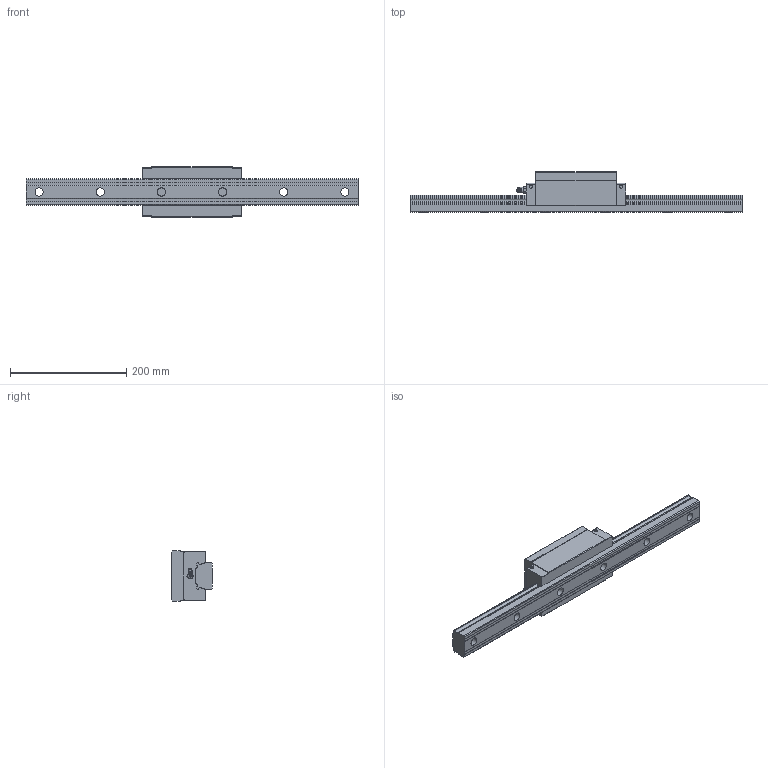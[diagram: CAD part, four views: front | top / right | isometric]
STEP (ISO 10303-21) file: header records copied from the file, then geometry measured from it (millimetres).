
FILE_DESCRIPTION(/* description */ ('STEP AP203'),/* implementation_level */ '2;1');
FILE_NAME(/* name */ 'SVR45LRH1SS-570L_G22-5_0_B-PT18_199-5_0_0_0_1',/* time_stamp */ '2024-05-17T07:28:57+02:00',/* author */ ('License CC BY-ND 4.0'),/* organization */ ('CADENAS'),/* preprocessor_version */ 'ST-DEVELOPER v19.3',/* originating_system */ 'PARTsolutions',/* authorisation */ ' ');
FILE_SCHEMA (('CONFIG_CONTROL_DESIGN'));
Length unit declared in the file: millimetre
Products named in the file (4): SVR45LRH1SS-570L_G22-5_0_B-PT18_199-5_0_0_0_1; SVR 45LRH57022.5 R Track; SVR 45LRH1SSB-PT1/81 Slide; B-PT1/8_grease_nipple_joint1_SVR
Assembly tree (3 placements, depth 2):
  SVR45LRH1SS-570L_G22-5_0_B-PT18_199-5_0_0_0_1
    SVR 45LRH57022.5 R Track
    SVR 45LRH1SSB-PT1/81 Slide
    B-PT1/8_grease_nipple_joint1_SVR
Bounding box: 570 x 70 x 86 mm (x, y, z)
Volume: 1316461.3 mm3; surface area: 161963.5 mm2
Topology: 3 solids, 3 shells, 185 faces, 488 edges, 321 vertices
Faces by surface type: plane 99, cylinder 61, cone 20, torus 3, sphere 2
Full cylindrical faces by diameter (mm): 5.2 x4, 8.376 x4, 9.6 x1, 14 x6, 20 x6
Entity records: 5546 total; most frequent: CARTESIAN_POINT 1048, DIRECTION 920, ORIENTED_EDGE 846, EDGE_CURVE 423, AXIS2_PLACEMENT_3D 335, VERTEX_POINT 308, FACE_BOUND 261, EDGE_LOOP 255
